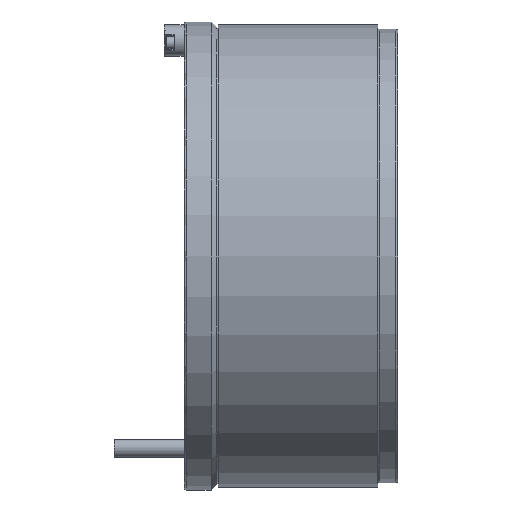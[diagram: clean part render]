
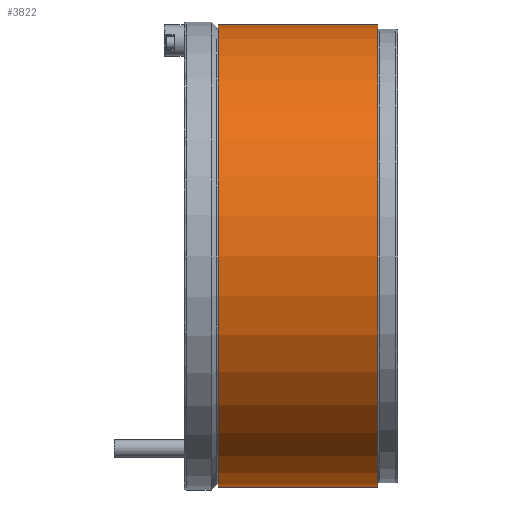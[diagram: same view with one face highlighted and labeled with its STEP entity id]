
A CAD part, left-side view. The second image highlights one B-rep face of the part: STEP entity #3822.
In plain terms, the highlighted cylindrical face has radius 162.5 mm (diameter 325 mm), a partial arc.
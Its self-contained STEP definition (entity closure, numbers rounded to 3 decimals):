
#355 = CYLINDRICAL_SURFACE ( 'NONE', #7933, 162.5 ) ;
#546 = ORIENTED_EDGE ( 'NONE', *, *, #9834, .F. ) ;
#1154 = CARTESIAN_POINT ( 'NONE',  ( 0., 0., -162.5 ) ) ;
#1174 = LINE ( 'NONE', #4320, #1500 ) ;
#1500 = VECTOR ( 'NONE', #4512, 1000. ) ;
#1727 = DIRECTION ( 'NONE',  ( 0., -1., 0. ) ) ;
#1955 = DIRECTION ( 'NONE',  ( 0., -1., 0. ) ) ;
#2774 = CARTESIAN_POINT ( 'NONE',  ( 0., 126., -162.5 ) ) ;
#2806 = DIRECTION ( 'NONE',  ( 0., 0., -1. ) ) ;
#3738 = CARTESIAN_POINT ( 'NONE',  ( 0., 14., 162.5 ) ) ;
#3822 = ADVANCED_FACE ( 'NONE', ( #5007 ), #355, .T. ) ;
#4320 = CARTESIAN_POINT ( 'NONE',  ( 0., 0., 162.5 ) ) ;
#4403 = ORIENTED_EDGE ( 'NONE', *, *, #13253, .T. ) ;
#4410 = DIRECTION ( 'NONE',  ( 0., 0., -1. ) ) ;
#4512 = DIRECTION ( 'NONE',  ( 0., -1., 0. ) ) ;
#5007 = FACE_OUTER_BOUND ( 'NONE', #11549, .T. ) ;
#6280 = CARTESIAN_POINT ( 'NONE',  ( 0., 14., -162.5 ) ) ;
#6504 = DIRECTION ( 'NONE',  ( 0., -1., 0. ) ) ;
#6623 = CIRCLE ( 'NONE', #10744, 162.5 ) ;
#6783 = CIRCLE ( 'NONE', #6983, 162.5 ) ;
#6983 = AXIS2_PLACEMENT_3D ( 'NONE', #11627, #1955, #8325 ) ;
#7749 = VERTEX_POINT ( 'NONE', #2774 ) ;
#7933 = AXIS2_PLACEMENT_3D ( 'NONE', #10789, #11716, #4410 ) ;
#8123 = VERTEX_POINT ( 'NONE', #8847 ) ;
#8325 = DIRECTION ( 'NONE',  ( 0., 0., -1. ) ) ;
#8500 = VECTOR ( 'NONE', #6504, 1000. ) ;
#8576 = EDGE_CURVE ( 'NONE', #7749, #13435, #11336, .T. ) ;
#8847 = CARTESIAN_POINT ( 'NONE',  ( 0., 126., 162.5 ) ) ;
#9129 = CARTESIAN_POINT ( 'NONE',  ( 0., 126., 0. ) ) ;
#9834 = EDGE_CURVE ( 'NONE', #10915, #13435, #6783, .T. ) ;
#10744 = AXIS2_PLACEMENT_3D ( 'NONE', #9129, #1727, #2806 ) ;
#10789 = CARTESIAN_POINT ( 'NONE',  ( 0., 0., 0. ) ) ;
#10915 = VERTEX_POINT ( 'NONE', #3738 ) ;
#11336 = LINE ( 'NONE', #1154, #8500 ) ;
#11549 = EDGE_LOOP ( 'NONE', ( #13749, #4403, #13814, #546 ) ) ;
#11627 = CARTESIAN_POINT ( 'NONE',  ( 0., 14., 0. ) ) ;
#11716 = DIRECTION ( 'NONE',  ( 0., -1., 0. ) ) ;
#11897 = EDGE_CURVE ( 'NONE', #8123, #10915, #1174, .T. ) ;
#13253 = EDGE_CURVE ( 'NONE', #8123, #7749, #6623, .T. ) ;
#13435 = VERTEX_POINT ( 'NONE', #6280 ) ;
#13749 = ORIENTED_EDGE ( 'NONE', *, *, #11897, .F. ) ;
#13814 = ORIENTED_EDGE ( 'NONE', *, *, #8576, .T. ) ;
